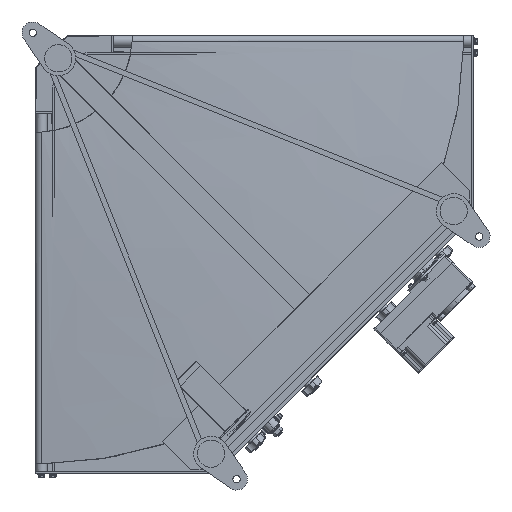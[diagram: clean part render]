
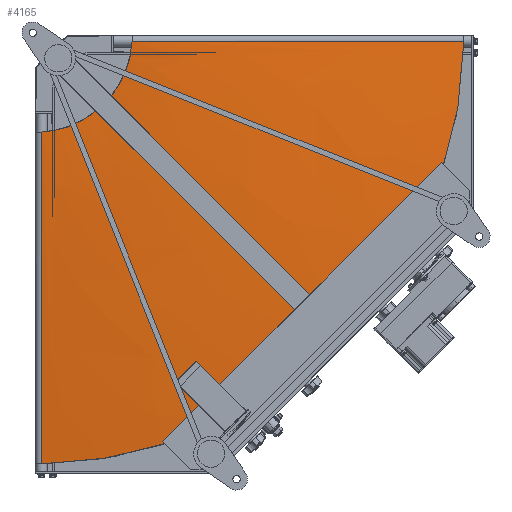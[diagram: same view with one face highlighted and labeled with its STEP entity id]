
A CAD part, front view. The second image highlights one B-rep face of the part: STEP entity #4165.
In plain terms, the highlighted free-form (B-spline) face has degree [3, 3] with [6, 4] control points.
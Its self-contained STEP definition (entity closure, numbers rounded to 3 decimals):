
#4165=ADVANCED_FACE('',(#17963),#17962,.F.);
#17962=( BOUNDED_SURFACE() B_SPLINE_SURFACE( 3,3,((#29230,#29231,#29232,#29233),(#29234,#29235,#29236,#29237),(#29238,#29239,#29240,#29241),(#29242,#29243,#29244,#29245),(#29246,#29247,#29248,#29249),(#29250,#29251,#29252,#29253)), .UNSPECIFIED.,.F.,.F.,.F.) B_SPLINE_SURFACE_WITH_KNOTS((4,2,4),(4,4),(-0.009,0.5,1.009),(-0.066,1.066), .UNSPECIFIED. ) GEOMETRIC_REPRESENTATION_ITEM() RATIONAL_B_SPLINE_SURFACE(((1.,1.,1.,1.),(1.,1.,1.,1.),(1.,1.,1.,1.),(1.,1.,1.,1.),(1.,1.,1.,1.),(1.,1.,1.,1.))) REPRESENTATION_ITEM('') SURFACE() );
#17963=FACE_OUTER_BOUND('',#29254,.T.);
#29230=CARTESIAN_POINT('',(787.165,-18.178,1.063));
#29231=CARTESIAN_POINT('',(568.459,-18.716,-2.057));
#29232=CARTESIAN_POINT('',(349.753,-19.255,-5.176));
#29233=CARTESIAN_POINT('',(131.048,-19.794,-8.296));
#29234=CARTESIAN_POINT('',(786.741,-46.965,-206.657));
#29235=CARTESIAN_POINT('',(567.5,-37.317,-151.205));
#29236=CARTESIAN_POINT('',(348.26,-27.669,-95.753));
#29237=CARTESIAN_POINT('',(129.02,-18.021,-40.301));
#29238=CARTESIAN_POINT('',(702.983,-63.137,-406.895));
#29239=CARTESIAN_POINT('',(507.139,-47.766,-294.713));
#29240=CARTESIAN_POINT('',(311.296,-32.395,-182.531));
#29241=CARTESIAN_POINT('',(115.453,-17.024,-70.349));
#29242=CARTESIAN_POINT('',(406.895,-63.137,-702.983));
#29243=CARTESIAN_POINT('',(294.713,-47.766,-507.139));
#29244=CARTESIAN_POINT('',(182.531,-32.395,-311.296));
#29245=CARTESIAN_POINT('',(70.349,-17.024,-115.453));
#29246=CARTESIAN_POINT('',(206.657,-46.965,-786.741));
#29247=CARTESIAN_POINT('',(151.205,-37.317,-567.5));
#29248=CARTESIAN_POINT('',(95.753,-27.669,-348.26));
#29249=CARTESIAN_POINT('',(40.301,-18.021,-129.02));
#29250=CARTESIAN_POINT('',(-1.063,-18.178,-787.165));
#29251=CARTESIAN_POINT('',(2.057,-18.716,-568.459));
#29252=CARTESIAN_POINT('',(5.176,-19.255,-349.753));
#29253=CARTESIAN_POINT('',(8.296,-19.794,-131.048));
#29254=EDGE_LOOP('',(#36751,#36752,#36753,#36754));
#36751=ORIENTED_EDGE('',*,*,#40474,.F.);
#36752=ORIENTED_EDGE('',*,*,#40475,.T.);
#36753=ORIENTED_EDGE('',*,*,#40476,.T.);
#36754=ORIENTED_EDGE('',*,*,#40477,.F.);
#40474=EDGE_CURVE('',#61327,#61328,#61329,.T.);
#40475=EDGE_CURVE('',#61327,#61335,#61336,.T.);
#40476=EDGE_CURVE('',#61335,#61342,#61343,.T.);
#40477=EDGE_CURVE('',#61328,#61342,#61349,.T.);
#61327=VERTEX_POINT('',#78979);
#61328=VERTEX_POINT('',#78980);
#61329=(BOUNDED_CURVE() B_SPLINE_CURVE(3,(#78981,#78982,#78983,#78984,#78985,#78986,#78987,#78988,#78989,#78990,#78991,#78992,#78993,#78994,#78995,#78996,#78997,#78998,#78999,#79000,#79001,#79002,#79003,#79004,#79005,#79006,#79007,#79008,#79009,#79010,#79011,#79012,#79013,#79014),.UNSPECIFIED.,.F.,.F.) B_SPLINE_CURVE_WITH_KNOTS((4,2,2,2,2,2,2,2,2,2,2,2,2,2,2,2,4),(0.,0.063,0.125,0.188,0.25,0.313,0.375,0.438,0.5,0.563,0.625,0.688,0.75,0.813,0.875,0.938,1.),.UNSPECIFIED.) CURVE() GEOMETRIC_REPRESENTATION_ITEM() RATIONAL_B_SPLINE_CURVE((1.,1.,1.,1.,1.,1.,1.,1.,1.,1.,1.,1.,1.,1.,1.,1.,1.,1.,1.,1.,1.,1.,1.,1.,1.,1.,1.,1.,1.,1.,1.,1.,1.,1.)) REPRESENTATION_ITEM('') );
#61335=VERTEX_POINT('',#79015);
#61336=LINE('',#79016,#79017);
#61342=VERTEX_POINT('',#79019);
#61343=(BOUNDED_CURVE() B_SPLINE_CURVE(3,(#79020,#79021,#79022,#79023,#79024,#79025,#79026,#79027,#79028,#79029,#79030),.UNSPECIFIED.,.F.,.F.) B_SPLINE_CURVE_WITH_KNOTS((4,1,1,1,1,1,1,1,4),(0.,0.134,0.224,0.334,0.5,0.666,0.776,0.866,1.),.UNSPECIFIED.) CURVE() GEOMETRIC_REPRESENTATION_ITEM() RATIONAL_B_SPLINE_CURVE((1.,1.,1.,1.,1.,1.,1.,1.,1.,1.,1.)) REPRESENTATION_ITEM('') );
#61349=LINE('',#79031,#79032);
#78979=CARTESIAN_POINT('',(748.933,-19.7,-10.));
#78980=CARTESIAN_POINT('',(10.,-19.7,-748.933));
#78981=CARTESIAN_POINT('',(748.933,-19.7,-10.));
#78982=CARTESIAN_POINT('',(748.611,-22.929,-33.954));
#78983=CARTESIAN_POINT('',(747.142,-25.998,-57.904));
#78984=CARTESIAN_POINT('',(741.907,-31.791,-105.597));
#78985=CARTESIAN_POINT('',(738.138,-34.515,-129.344));
#78986=CARTESIAN_POINT('',(728.321,-39.592,-176.417));
#78987=CARTESIAN_POINT('',(722.276,-41.945,-199.742));
#78988=CARTESIAN_POINT('',(707.953,-46.256,-245.734));
#78989=CARTESIAN_POINT('',(699.672,-48.214,-268.399));
#78990=CARTESIAN_POINT('',(680.957,-51.715,-312.851));
#78991=CARTESIAN_POINT('',(670.523,-53.259,-334.636));
#78992=CARTESIAN_POINT('',(647.591,-55.916,-377.109));
#78993=CARTESIAN_POINT('',(635.093,-57.029,-397.796));
#78994=CARTESIAN_POINT('',(608.148,-58.815,-437.882));
#78995=CARTESIAN_POINT('',(593.698,-59.488,-457.281));
#78996=CARTESIAN_POINT('',(562.983,-60.385,-494.603));
#78997=CARTESIAN_POINT('',(546.719,-60.611,-512.527));
#78998=CARTESIAN_POINT('',(512.532,-60.611,-546.714));
#78999=CARTESIAN_POINT('',(494.608,-60.385,-562.978));
#79000=CARTESIAN_POINT('',(457.286,-59.488,-593.694));
#79001=CARTESIAN_POINT('',(437.888,-58.815,-608.144));
#79002=CARTESIAN_POINT('',(397.801,-57.029,-635.089));
#79003=CARTESIAN_POINT('',(377.114,-55.916,-647.587));
#79004=CARTESIAN_POINT('',(334.643,-53.259,-670.52));
#79005=CARTESIAN_POINT('',(312.859,-51.715,-680.954));
#79006=CARTESIAN_POINT('',(268.408,-48.214,-699.669));
#79007=CARTESIAN_POINT('',(245.742,-46.257,-707.95));
#79008=CARTESIAN_POINT('',(199.745,-41.945,-722.274));
#79009=CARTESIAN_POINT('',(176.417,-39.591,-728.32));
#79010=CARTESIAN_POINT('',(129.338,-34.514,-738.138));
#79011=CARTESIAN_POINT('',(105.59,-31.79,-741.909));
#79012=CARTESIAN_POINT('',(57.9,-25.998,-747.144));
#79013=CARTESIAN_POINT('',(33.954,-22.929,-748.612));
#79014=CARTESIAN_POINT('',(10.,-19.7,-748.933));
#79015=CARTESIAN_POINT('',(168.704,-19.7,-10.));
#79016=CARTESIAN_POINT('',(748.933,-19.7,-10.));
#79017=VECTOR('',#79018,580.229);
#79018=DIRECTION('',(-1.,0.,0.));
#79019=CARTESIAN_POINT('',(10.,-19.7,-168.704));
#79020=CARTESIAN_POINT('',(168.704,-19.7,-10.));
#79021=CARTESIAN_POINT('',(168.056,-19.696,-20.952));
#79022=CARTESIAN_POINT('',(165.188,-19.691,-39.108));
#79023=CARTESIAN_POINT('',(156.616,-19.685,-65.058));
#79024=CARTESIAN_POINT('',(143.203,-19.681,-91.898));
#79025=CARTESIAN_POINT('',(120.677,-19.678,-120.677));
#79026=CARTESIAN_POINT('',(91.898,-19.681,-143.203));
#79027=CARTESIAN_POINT('',(65.058,-19.685,-156.616));
#79028=CARTESIAN_POINT('',(39.108,-19.691,-165.188));
#79029=CARTESIAN_POINT('',(20.952,-19.696,-168.056));
#79030=CARTESIAN_POINT('',(10.,-19.7,-168.704));
#79031=CARTESIAN_POINT('',(10.,-19.7,-748.933));
#79032=VECTOR('',#79033,580.229);
#79033=DIRECTION('',(0.,0.,1.));
